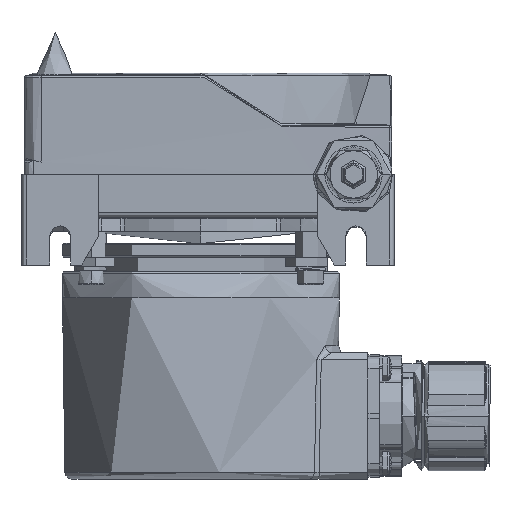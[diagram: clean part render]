
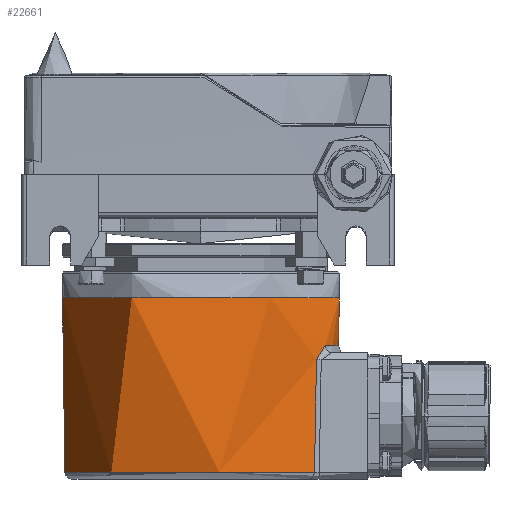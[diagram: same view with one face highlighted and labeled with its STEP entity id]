
A CAD part, left-side view. The second image highlights one B-rep face of the part: STEP entity #22661.
In plain terms, the highlighted conical face has half-angle 0.75 degrees and reference radius 29 mm.
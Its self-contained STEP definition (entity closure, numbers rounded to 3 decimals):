
#1152 = CARTESIAN_POINT ( 'NONE',  ( -15.381, -24.402, -27.719 ) ) ;
#1344 = CARTESIAN_POINT ( 'NONE',  ( -14.437, -24.991, -26.547 ) ) ;
#1542 = ORIENTED_EDGE ( 'NONE', *, *, #55660, .F. ) ;
#3402 = DIRECTION ( 'NONE',  ( 0., 0.013, 1. ) ) ;
#4530 = CARTESIAN_POINT ( 'NONE',  ( 0., 0., -52.42 ) ) ;
#4549 = VERTEX_POINT ( 'NONE', #42613 ) ;
#4921 = CONICAL_SURFACE ( 'NONE', #37249, 29., 0.013 ) ;
#5735 = CARTESIAN_POINT ( 'NONE',  ( -15.351, -24.422, -27.656 ) ) ;
#5926 = CARTESIAN_POINT ( 'NONE',  ( -13.941, -25.276, -26.238 ) ) ;
#8797 = ORIENTED_EDGE ( 'NONE', *, *, #14897, .T. ) ;
#9146 = DIRECTION ( 'NONE',  ( 0., 1., 0. ) ) ;
#9495 = VERTEX_POINT ( 'NONE', #34332 ) ;
#9502 = EDGE_CURVE ( 'NONE', #55313, #4549, #15444, .T. ) ;
#10373 = CARTESIAN_POINT ( 'NONE',  ( -15.248, -24.49, -27.45 ) ) ;
#10568 = CARTESIAN_POINT ( 'NONE',  ( -13.2, -25.677, -25.949 ) ) ;
#10993 = EDGE_CURVE ( 'NONE', #32704, #53429, #41664, .T. ) ;
#14897 = EDGE_CURVE ( 'NONE', #36992, #9495, #37766, .T. ) ;
#14908 = CARTESIAN_POINT ( 'NONE',  ( -14.953, -24.678, -27.04 ) ) ;
#15116 = CARTESIAN_POINT ( 'NONE',  ( -12.419, -26.062, -25.88 ) ) ;
#15444 = CIRCLE ( 'NONE', #18072, 28.869 ) ;
#15461 = B_SPLINE_CURVE_WITH_KNOTS ( 'NONE', 3,
 ( #36704, #41360, #19222, #50180, #23644, #54577, #28120, #1152, #32606, #5735, #37102, #10373, #41557, #14908, #45963, #19419, #50372, #23842, #54770, #28319, #1344, #32801, #5926, #37286, #10568, #41745, #15116 ),
 .UNSPECIFIED., .F., .F.,
 ( 4, 2, 2, 1, 1, 2, 2, 2, 2, 1, 2, 2, 2, 2, 4 ),
 ( 0., 0.125, 0.187, 0.219, 0.234, 0.242, 0.25, 0.375, 0.438, 0.469, 0.484, 0.5, 0.625, 0.75, 1. ),
 .UNSPECIFIED. ) ;
#16012 = ORIENTED_EDGE ( 'NONE', *, *, #10993, .T. ) ;
#17191 = ORIENTED_EDGE ( 'NONE', *, *, #45675, .T. ) ;
#17689 = CARTESIAN_POINT ( 'NONE',  ( 0., 28.522, -52.42 ) ) ;
#18072 = AXIS2_PLACEMENT_3D ( 'NONE', #32312, #32191, #31995 ) ;
#18372 = CARTESIAN_POINT ( 'NONE',  ( -15.638, -24.22, -28.88 ) ) ;
#18444 = CARTESIAN_POINT ( 'NONE',  ( -15.659, -24.084, -36.794 ) ) ;
#18511 = CARTESIAN_POINT ( 'NONE',  ( -15.699, -23.812, -52.42 ) ) ;
#19104 = CARTESIAN_POINT ( 'NONE',  ( -15.679, -23.948, -44.64 ) ) ;
#19222 = CARTESIAN_POINT ( 'NONE',  ( -15.612, -24.244, -28.451 ) ) ;
#19419 = CARTESIAN_POINT ( 'NONE',  ( -14.778, -24.785, -26.852 ) ) ;
#21148 = CARTESIAN_POINT ( 'NONE',  ( 0., 29., -15.9 ) ) ;
#21310 = DIRECTION ( 'NONE',  ( 0., -0.013, 1. ) ) ;
#21682 = CARTESIAN_POINT ( 'NONE',  ( -12.419, -26.062, -25.88 ) ) ;
#22661 = ADVANCED_FACE ( 'NONE', ( #44795 ), #4921, .T. ) ;
#22911 = EDGE_LOOP ( 'NONE', ( #1542, #17191, #8797, #42423, #40820, #45315, #16012 ) ) ;
#23644 = CARTESIAN_POINT ( 'NONE',  ( -15.507, -24.318, -28.035 ) ) ;
#23842 = CARTESIAN_POINT ( 'NONE',  ( -14.665, -24.854, -26.744 ) ) ;
#25704 = CARTESIAN_POINT ( 'NONE',  ( 0., -29., -15.9 ) ) ;
#26450 = CARTESIAN_POINT ( 'NONE',  ( 0., 0., -15.9 ) ) ;
#28120 = CARTESIAN_POINT ( 'NONE',  ( -15.42, -24.376, -27.807 ) ) ;
#28319 = CARTESIAN_POINT ( 'NONE',  ( -14.605, -24.89, -26.691 ) ) ;
#30482 = VECTOR ( 'NONE', #21310, 1000. ) ;
#30512 = DIRECTION ( 'NONE',  ( 0., 0., -1. ) ) ;
#31905 = LINE ( 'NONE', #43410, #30482 ) ;
#31995 = DIRECTION ( 'NONE',  ( 0., 1., 0. ) ) ;
#32056 = CIRCLE ( 'NONE', #41174, 28.522 ) ;
#32191 = DIRECTION ( 'NONE',  ( 0., 0., 1. ) ) ;
#32312 = CARTESIAN_POINT ( 'NONE',  ( 0., 0., -25.88 ) ) ;
#32606 = CARTESIAN_POINT ( 'NONE',  ( -15.363, -24.414, -27.681 ) ) ;
#32704 = VERTEX_POINT ( 'NONE', #25704 ) ;
#32801 = CARTESIAN_POINT ( 'NONE',  ( -14.278, -25.084, -26.434 ) ) ;
#33750 = EDGE_CURVE ( 'NONE', #9495, #55313, #15461, .T. ) ;
#34332 = CARTESIAN_POINT ( 'NONE',  ( -15.638, -24.22, -28.88 ) ) ;
#35925 = DIRECTION ( 'NONE',  ( 0., 0., 1. ) ) ;
#36704 = CARTESIAN_POINT ( 'NONE',  ( -15.638, -24.22, -28.88 ) ) ;
#36992 = VERTEX_POINT ( 'NONE', #56845 ) ;
#37102 = CARTESIAN_POINT ( 'NONE',  ( -15.344, -24.427, -27.643 ) ) ;
#37249 = AXIS2_PLACEMENT_3D ( 'NONE', #46431, #47592, #46235 ) ;
#37286 = CARTESIAN_POINT ( 'NONE',  ( -13.761, -25.376, -26.154 ) ) ;
#37766 = B_SPLINE_CURVE_WITH_KNOTS ( 'NONE', 3,
 ( #18511, #19104, #18444, #18372 ),
 .UNSPECIFIED., .F., .F.,
 ( 4, 4 ),
 ( 0., 1. ),
 .UNSPECIFIED. ) ;
#40820 = ORIENTED_EDGE ( 'NONE', *, *, #9502, .T. ) ;
#41174 = AXIS2_PLACEMENT_3D ( 'NONE', #4530, #35925, #9146 ) ;
#41360 = CARTESIAN_POINT ( 'NONE',  ( -15.637, -24.224, -28.663 ) ) ;
#41557 = CARTESIAN_POINT ( 'NONE',  ( -15.141, -24.56, -27.28 ) ) ;
#41664 = CIRCLE ( 'NONE', #52880, 29. ) ;
#41745 = CARTESIAN_POINT ( 'NONE',  ( -12.815, -25.873, -25.88 ) ) ;
#42423 = ORIENTED_EDGE ( 'NONE', *, *, #33750, .T. ) ;
#42613 = CARTESIAN_POINT ( 'NONE',  ( 0., -28.869, -25.88 ) ) ;
#43410 = CARTESIAN_POINT ( 'NONE',  ( 0., -29., -15.9 ) ) ;
#43709 = CARTESIAN_POINT ( 'NONE',  ( 0., 29., -15.9 ) ) ;
#44795 = FACE_OUTER_BOUND ( 'NONE', #22911, .T. ) ;
#45315 = ORIENTED_EDGE ( 'NONE', *, *, #56584, .T. ) ;
#45675 = EDGE_CURVE ( 'NONE', #56949, #36992, #32056, .T. ) ;
#45963 = CARTESIAN_POINT ( 'NONE',  ( -14.885, -24.719, -26.964 ) ) ;
#46154 = LINE ( 'NONE', #43709, #56359 ) ;
#46235 = DIRECTION ( 'NONE',  ( 0., -1., 0. ) ) ;
#46431 = CARTESIAN_POINT ( 'NONE',  ( 0., 0., -15.9 ) ) ;
#47592 = DIRECTION ( 'NONE',  ( 0., 0., 1. ) ) ;
#50180 = CARTESIAN_POINT ( 'NONE',  ( -15.538, -24.296, -28.138 ) ) ;
#50372 = CARTESIAN_POINT ( 'NONE',  ( -14.723, -24.819, -26.797 ) ) ;
#52880 = AXIS2_PLACEMENT_3D ( 'NONE', #26450, #30512, #56330 ) ;
#53429 = VERTEX_POINT ( 'NONE', #21148 ) ;
#54577 = CARTESIAN_POINT ( 'NONE',  ( -15.451, -24.356, -27.883 ) ) ;
#54770 = CARTESIAN_POINT ( 'NONE',  ( -14.626, -24.878, -26.709 ) ) ;
#55313 = VERTEX_POINT ( 'NONE', #21682 ) ;
#55660 = EDGE_CURVE ( 'NONE', #56949, #53429, #46154, .T. ) ;
#56330 = DIRECTION ( 'NONE',  ( 0., -1., 0. ) ) ;
#56359 = VECTOR ( 'NONE', #3402, 1000. ) ;
#56584 = EDGE_CURVE ( 'NONE', #4549, #32704, #31905, .T. ) ;
#56845 = CARTESIAN_POINT ( 'NONE',  ( -15.699, -23.812, -52.42 ) ) ;
#56949 = VERTEX_POINT ( 'NONE', #17689 ) ;
